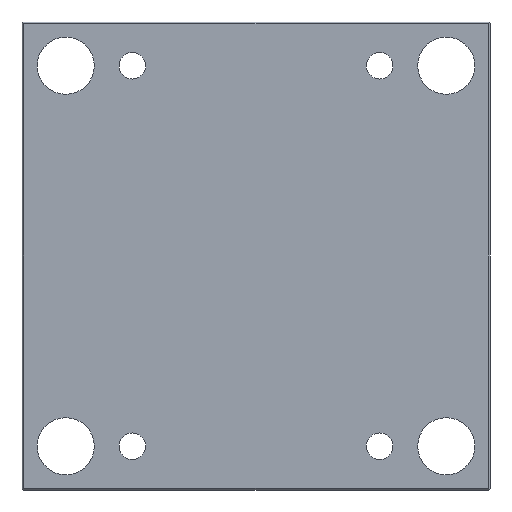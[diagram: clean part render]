
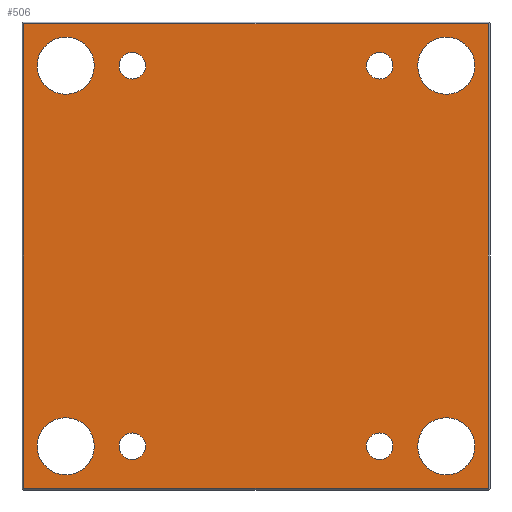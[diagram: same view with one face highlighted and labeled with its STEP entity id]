
A CAD part, front view. The second image highlights one B-rep face of the part: STEP entity #506.
In plain terms, the highlighted planar face has unit normal (0, -1, 0).
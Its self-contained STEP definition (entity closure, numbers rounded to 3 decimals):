
#36=CIRCLE('',#554,7.);
#37=CIRCLE('',#555,7.);
#38=CIRCLE('',#556,7.);
#39=CIRCLE('',#557,7.);
#40=CIRCLE('',#558,15.);
#41=CIRCLE('',#559,15.);
#42=CIRCLE('',#560,15.);
#43=CIRCLE('',#561,15.);
#96=ORIENTED_EDGE('',*,*,#216,.F.);
#97=ORIENTED_EDGE('',*,*,#217,.F.);
#98=ORIENTED_EDGE('',*,*,#218,.F.);
#99=ORIENTED_EDGE('',*,*,#219,.F.);
#100=ORIENTED_EDGE('',*,*,#220,.F.);
#101=ORIENTED_EDGE('',*,*,#221,.F.);
#102=ORIENTED_EDGE('',*,*,#222,.F.);
#103=ORIENTED_EDGE('',*,*,#223,.F.);
#104=ORIENTED_EDGE('',*,*,#224,.F.);
#105=ORIENTED_EDGE('',*,*,#210,.F.);
#106=ORIENTED_EDGE('',*,*,#225,.T.);
#107=ORIENTED_EDGE('',*,*,#212,.T.);
#210=EDGE_CURVE('',#267,#264,#314,.T.);
#212=EDGE_CURVE('',#269,#268,#316,.T.);
#216=EDGE_CURVE('',#272,#272,#36,.T.);
#217=EDGE_CURVE('',#273,#273,#37,.T.);
#218=EDGE_CURVE('',#274,#274,#38,.T.);
#219=EDGE_CURVE('',#275,#275,#39,.T.);
#220=EDGE_CURVE('',#276,#276,#40,.T.);
#221=EDGE_CURVE('',#277,#277,#41,.T.);
#222=EDGE_CURVE('',#278,#278,#42,.T.);
#223=EDGE_CURVE('',#279,#279,#43,.T.);
#224=EDGE_CURVE('',#264,#268,#320,.T.);
#225=EDGE_CURVE('',#267,#269,#321,.T.);
#264=VERTEX_POINT('',#784);
#267=VERTEX_POINT('',#790);
#268=VERTEX_POINT('',#794);
#269=VERTEX_POINT('',#796);
#272=VERTEX_POINT('',#804);
#273=VERTEX_POINT('',#806);
#274=VERTEX_POINT('',#808);
#275=VERTEX_POINT('',#810);
#276=VERTEX_POINT('',#812);
#277=VERTEX_POINT('',#814);
#278=VERTEX_POINT('',#816);
#279=VERTEX_POINT('',#818);
#314=LINE('',#791,#362);
#316=LINE('',#795,#364);
#320=LINE('',#819,#368);
#321=LINE('',#820,#369);
#362=VECTOR('',#641,1000.);
#364=VECTOR('',#645,1000.);
#368=VECTOR('',#667,1000.);
#369=VECTOR('',#668,1000.);
#396=EDGE_LOOP('',(#96));
#397=EDGE_LOOP('',(#97));
#398=EDGE_LOOP('',(#98));
#399=EDGE_LOOP('',(#99));
#400=EDGE_LOOP('',(#100));
#401=EDGE_LOOP('',(#101));
#402=EDGE_LOOP('',(#102));
#403=EDGE_LOOP('',(#103));
#404=EDGE_LOOP('',(#104,#105,#106,#107));
#446=FACE_BOUND('',#396,.T.);
#447=FACE_BOUND('',#397,.T.);
#448=FACE_BOUND('',#398,.T.);
#449=FACE_BOUND('',#399,.T.);
#450=FACE_BOUND('',#400,.T.);
#451=FACE_BOUND('',#401,.T.);
#452=FACE_BOUND('',#402,.T.);
#453=FACE_BOUND('',#403,.T.);
#454=FACE_BOUND('',#404,.T.);
#488=PLANE('',#553);
#506=ADVANCED_FACE('',(#446,#447,#448,#449,#450,#451,#452,#453,#454),#488,
 .F.);
#553=AXIS2_PLACEMENT_3D('',#802,#649,#650);
#554=AXIS2_PLACEMENT_3D('',#803,#651,#652);
#555=AXIS2_PLACEMENT_3D('',#805,#653,#654);
#556=AXIS2_PLACEMENT_3D('',#807,#655,#656);
#557=AXIS2_PLACEMENT_3D('',#809,#657,#658);
#558=AXIS2_PLACEMENT_3D('',#811,#659,#660);
#559=AXIS2_PLACEMENT_3D('',#813,#661,#662);
#560=AXIS2_PLACEMENT_3D('',#815,#663,#664);
#561=AXIS2_PLACEMENT_3D('',#817,#665,#666);
#641=DIRECTION('',(0.,0.,-1.));
#645=DIRECTION('',(0.,0.,-1.));
#649=DIRECTION('',(0.,1.,0.));
#650=DIRECTION('',(0.,0.,1.));
#651=DIRECTION('',(0.,-1.,0.));
#652=DIRECTION('',(0.,0.,-1.));
#653=DIRECTION('',(0.,-1.,0.));
#654=DIRECTION('',(0.,0.,-1.));
#655=DIRECTION('',(0.,-1.,0.));
#656=DIRECTION('',(0.,0.,-1.));
#657=DIRECTION('',(0.,-1.,0.));
#658=DIRECTION('',(0.,0.,-1.));
#659=DIRECTION('',(0.,-1.,0.));
#660=DIRECTION('',(0.,0.,-1.));
#661=DIRECTION('',(0.,-1.,0.));
#662=DIRECTION('',(0.,0.,-1.));
#663=DIRECTION('',(0.,-1.,0.));
#664=DIRECTION('',(0.,0.,-1.));
#665=DIRECTION('',(0.,-1.,0.));
#666=DIRECTION('',(0.,0.,-1.));
#667=DIRECTION('',(-1.,0.,0.));
#668=DIRECTION('',(-1.,0.,0.));
#784=CARTESIAN_POINT('',(122.,0.,-122.));
#790=CARTESIAN_POINT('',(122.,0.,122.));
#791=CARTESIAN_POINT('',(122.,0.,123.));
#794=CARTESIAN_POINT('',(-122.,0.,-122.));
#795=CARTESIAN_POINT('',(-122.,0.,123.));
#796=CARTESIAN_POINT('',(-122.,0.,122.));
#802=CARTESIAN_POINT('',(-122.,0.,123.));
#803=CARTESIAN_POINT('',(65.,0.,100.));
#804=CARTESIAN_POINT('',(65.,0.,93.));
#805=CARTESIAN_POINT('',(-65.,0.,100.));
#806=CARTESIAN_POINT('',(-65.,0.,93.));
#807=CARTESIAN_POINT('',(65.,0.,-100.));
#808=CARTESIAN_POINT('',(65.,0.,-107.));
#809=CARTESIAN_POINT('',(-65.,0.,-100.));
#810=CARTESIAN_POINT('',(-65.,0.,-107.));
#811=CARTESIAN_POINT('',(100.,0.,100.));
#812=CARTESIAN_POINT('',(100.,0.,85.));
#813=CARTESIAN_POINT('',(-100.,0.,100.));
#814=CARTESIAN_POINT('',(-100.,0.,85.));
#815=CARTESIAN_POINT('',(100.,0.,-100.));
#816=CARTESIAN_POINT('',(100.,0.,-115.));
#817=CARTESIAN_POINT('',(-100.,0.,-100.));
#818=CARTESIAN_POINT('',(-100.,0.,-115.));
#819=CARTESIAN_POINT('',(123.,0.,-122.));
#820=CARTESIAN_POINT('',(123.,0.,122.));
